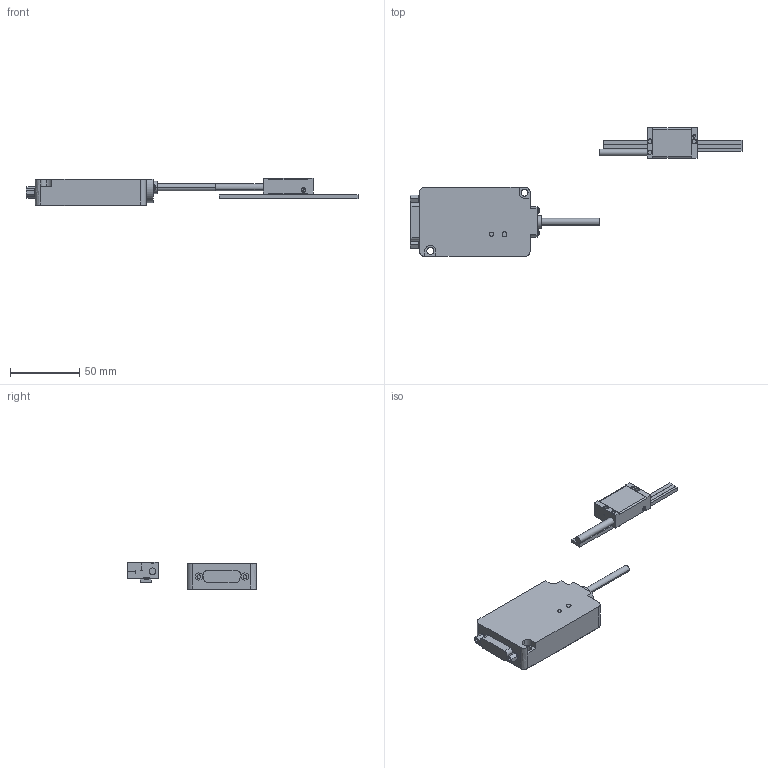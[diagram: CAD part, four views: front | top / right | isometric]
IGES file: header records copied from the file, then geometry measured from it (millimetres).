
Start section: Elysium IGES Interface
Global section: file name: 60H\\Utsu119s\kiyo_cad\data\3D\ST36\HP掲載用_201710\ST36-80.igs; native system: Creo Elements/Direct Modeling 18.1B  29-Sep-2012; preprocessor: Creo Element/Direct IGES_3D V2.2; author: Unknown; organization: Unknown; date: 20171011.154954; units: millimetre
Bounding box: 239.67 x 93 x 19.9 mm (x, y, z)
Volume: 90268.4 mm3; surface area: 20906.5 mm2
Topology: 3 solids, 5 shells, 267 faces, 632 edges, 397 vertices
Faces by surface type: bspline 267
